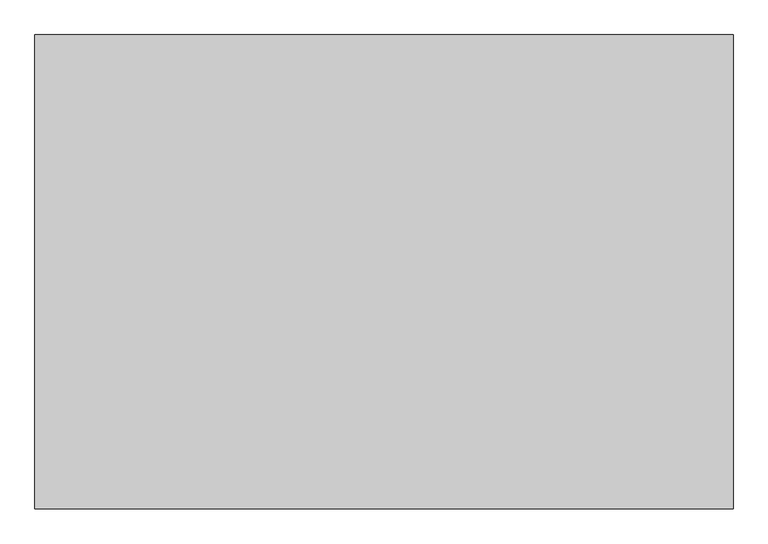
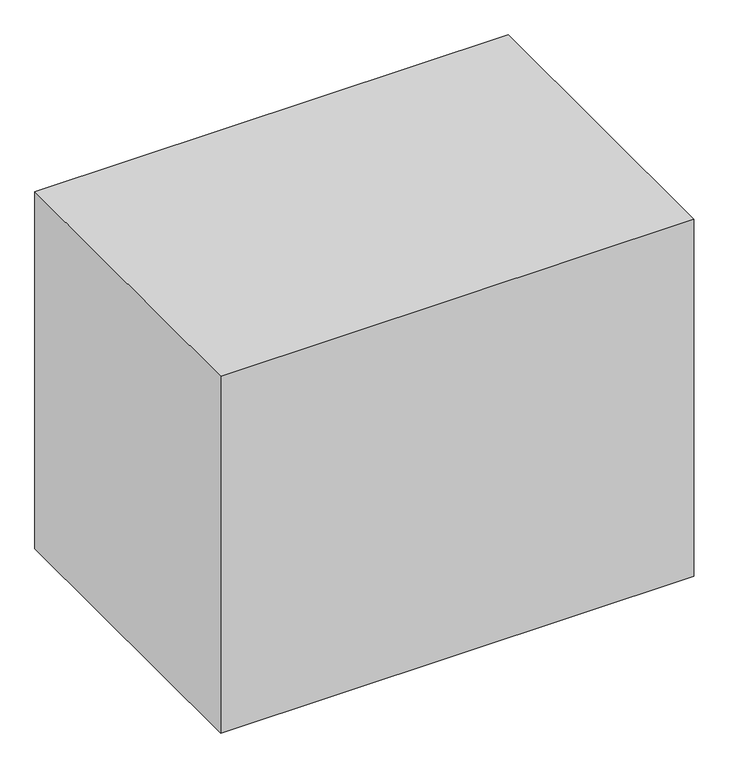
"""IFC4 building model written with IfcOpenShell, lengths in millimetres: proxy geometry, サービススペース(衛生) : サービススペース(衛生)."""

from ifc_helpers import new_model, si_unit, frame, origin, place, context, project, spatial, polyline, outline, extrude, source, transform, mapped, element, save


def specialty_equipment_fa19b4a0(model_context):
    return source(origin(), model_context, "Body", "SweptSolid", [
        extrude(outline(polyline([(1450.0, 985.0), (1450.0, -985.0), (-1450.0, -985.0), (-1450.0, 985.0), (1450.0, 985.0)])), frame((0.0, 0.0, -1156.0), z_axis=(0.0, 0.0, 1.0), x_axis=(1.0, 0.0, 0.0)), (0.0, 0.0, 1.0), 2312.0),
    ])


if __name__ == "__main__":
    model = new_model("IFC4")
    model_context = context("Model", 3, world=origin())
    ifc_project = project(units=[si_unit("LENGTHUNIT", "METRE", prefix="MILLI")], contexts=[model_context])
    site = spatial("IfcSite", under=ifc_project)
    building = spatial("IfcBuilding", under=site)
    placement = place(None, origin())
    specialty_equipment_shape = specialty_equipment_fa19b4a0(model_context)
    element("IfcBuildingElementProxy", 1, Name="サービススペース(衛生) : サービススペース(衛生)", ObjectType="サービススペース(衛生) : サービススペース(衛生)", at=placement, inside=building, context=model_context, shape_type="MappedRepresentation", body=[
        mapped(specialty_equipment_shape, transform((0.0, 0.0, 0.0), x_axis=(1.0, 0.0, 0.0), y_axis=(0.0, 1.0, 0.0), z_axis=(0.0, 0.0, 1.0))),
    ])
    save(model, "model.ifc")
